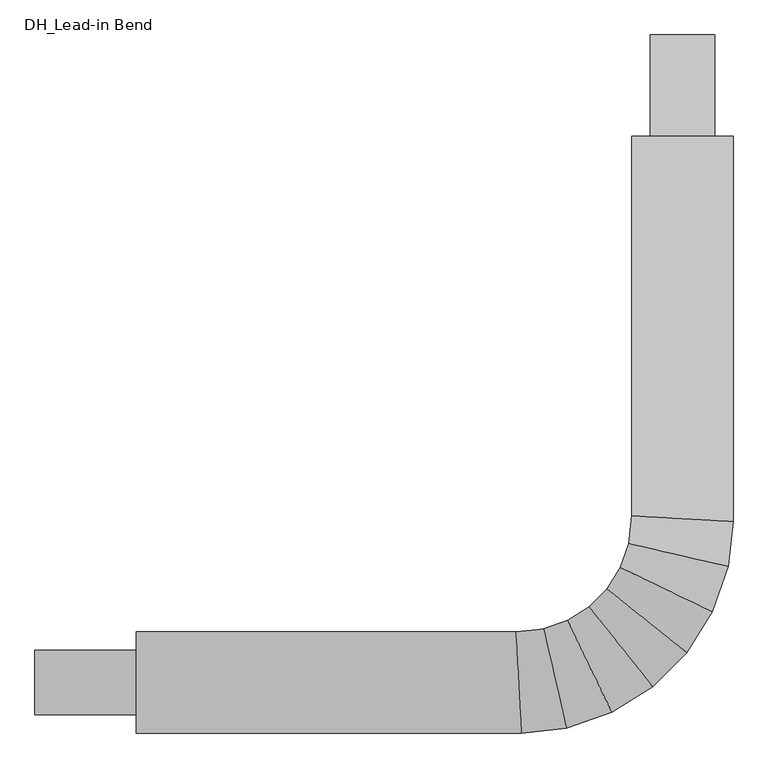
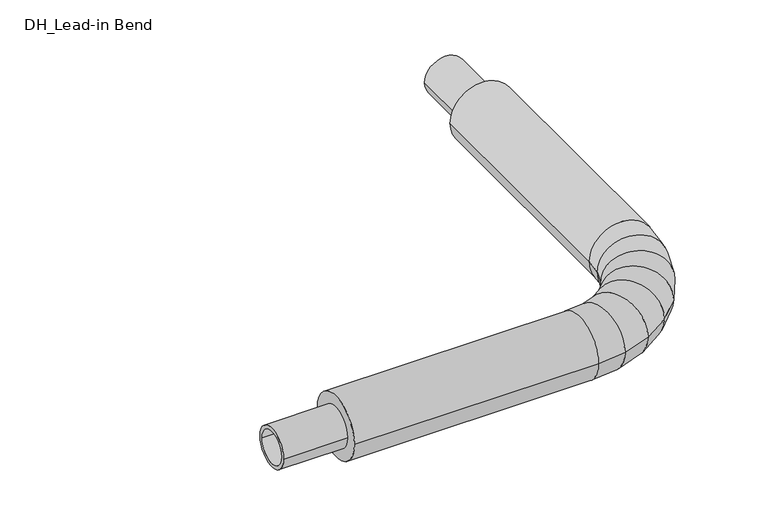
"""IFC4 building model written with IfcOpenShell, lengths in millimetres: pipe fitting geometry, DH_Lead-in Bend : RVT/RVX/RTX UNO 11 Heating."""

from ifc_helpers import new_model, si_unit, point, frame, origin, origin_2d, place, context, project, spatial, circle_curve, ellipse_curve, trimmed, segment, composite_curve, outline, extrude, source, transform, mapped, element, save
from ifc_brep_helpers import plane_surface, cylinder_surface, advanced_brep


def dh_lead_in_bend_179b0c8a(model_context):
    return source(origin(), model_context, "Body", "SolidModel", [
        advanced_brep(
        [(-1350.0, -125.0, 0.0), (-1350.0, 125.0, 0.0), (-397.9801506, -125.0, 0.0), (-412.0198494, 125.0, 0.0), (125.0, 1350.0, 0.0), (-125.0, 1350.0, 0.0), (-125.0, 412.0198494, 0.0), (125.0, 397.9801506, 0.0), (-286.8879022, -112.4829098, 0.0), (-342.8701402, 132.791301, 0.0), (-174.6984387, -73.2261186, 0.0), (-283.8557316, 153.4413357, 0.0), (-74.057257, -9.989073, 0.0), (-230.9160024, 186.7055723, 0.0), (9.989073, 74.057257, 0.0), (-186.7055723, 230.9160024, 0.0), (73.2261186, 174.6984387, 0.0), (-153.4413357, 283.8557316, 0.0), (112.4829098, 286.8879022, 0.0), (-132.791301, 342.8701402, 0.0)],
        [
            (0, 1, circle_curve(frame((-1350.0, 0.0, 0.0), z_axis=(-1.0, 0.0, 0.0), x_axis=(0.0, 1.0, 0.0)), 125.0)),
            (1, 0, circle_curve(frame((-1350.0, 0.0, 0.0), z_axis=(-1.0, 0.0, 0.0), x_axis=(0.0, 1.0, 0.0)), 125.0)),
            (0, 2),
            (2, 3, ellipse_curve(frame((-405.0, 0.0, 0.0), z_axis=(-0.9984268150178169, -0.05607044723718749, 0.0), x_axis=(-0.056070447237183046, 0.998426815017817, 0.0)), 125.196958, 125.0)),
            (3, 1),
            (3, 2, ellipse_curve(frame((-405.0, 0.0, 0.0), z_axis=(-0.9984268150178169, -0.05607044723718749, 0.0), x_axis=(-0.056070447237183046, 0.998426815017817, 0.0)), 125.196958, 125.0)),
            (4, 5, circle_curve(frame((0.0, 1350.0, 0.0), z_axis=(0.0, 1.0, 0.0), x_axis=(-1.0, 0.0, 0.0)), 125.0)),
            (5, 4, circle_curve(frame((0.0, 1350.0, 0.0), z_axis=(0.0, 1.0, 0.0), x_axis=(-1.0, 0.0, 0.0)), 125.0)),
            (6, 7, ellipse_curve(frame((0.0, 405.0, 0.0), z_axis=(0.05607044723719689, 0.9984268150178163, 0.0), x_axis=(0.9984268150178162, -0.05607044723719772, 0.0)), 125.196958, 125.0)),
            (7, 4),
            (5, 6),
            (7, 6, ellipse_curve(frame((0.0, 405.0, 0.0), z_axis=(0.05607044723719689, 0.9984268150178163, 0.0), x_axis=(0.9984268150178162, -0.05607044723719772, 0.0)), 125.196958, 125.0)),
            (2, 8),
            (8, 9, ellipse_curve(frame((-314.8790212, 10.1541956, 0.0), z_axis=(-0.9749279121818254, -0.22252093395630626, 0.0), x_axis=(-0.2225209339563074, 0.9749279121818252, 0.0)), 125.7909471, 125.0)),
            (9, 3),
            (9, 8, ellipse_curve(frame((-314.8790212, 10.1541956, 0.0), z_axis=(-0.9749279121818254, -0.22252093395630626, 0.0), x_axis=(-0.2225209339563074, 0.9749279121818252, 0.0)), 125.7909471, 125.0)),
            (8, 10),
            (10, 11, ellipse_curve(frame((-229.2770851, 40.1076086, 0.0), z_axis=(-0.9009688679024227, -0.4338837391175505, 0.0), x_axis=(-0.4338837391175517, 0.9009688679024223, 0.0)), 125.7909471, 125.0)),
            (11, 9),
            (11, 10, ellipse_curve(frame((-229.2770851, 40.1076086, 0.0), z_axis=(-0.9009688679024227, -0.4338837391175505, 0.0), x_axis=(-0.4338837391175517, 0.9009688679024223, 0.0)), 125.7909471, 125.0)),
            (10, 12),
            (12, 13, ellipse_curve(frame((-152.4866297, 88.3582497, 0.0), z_axis=(-0.7818314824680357, -0.6234898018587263, 0.0), x_axis=(-0.6234898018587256, 0.7818314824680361, 0.0)), 125.7909471, 125.0)),
            (13, 11),
            (13, 12, ellipse_curve(frame((-152.4866297, 88.3582497, 0.0), z_axis=(-0.7818314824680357, -0.6234898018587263, 0.0), x_axis=(-0.6234898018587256, 0.7818314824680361, 0.0)), 125.7909471, 125.0)),
            (12, 14),
            (14, 15, ellipse_curve(frame((-88.3582497, 152.4866297, 0.0), z_axis=(-0.6234898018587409, -0.7818314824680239, 0.0), x_axis=(-0.7818314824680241, 0.6234898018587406, 0.0)), 125.7909471, 125.0)),
            (15, 13),
            (15, 14, ellipse_curve(frame((-88.3582497, 152.4866297, 0.0), z_axis=(-0.6234898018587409, -0.7818314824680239, 0.0), x_axis=(-0.7818314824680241, 0.6234898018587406, 0.0)), 125.7909471, 125.0)),
            (14, 16),
            (16, 17, ellipse_curve(frame((-40.1076086, 229.2770851, 0.0), z_axis=(-0.43388373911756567, -0.9009688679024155, 0.0), x_axis=(-0.9009688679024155, 0.43388373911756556, 0.0)), 125.7909471, 125.0)),
            (17, 15),
            (17, 16, ellipse_curve(frame((-40.1076086, 229.2770851, 0.0), z_axis=(-0.43388373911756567, -0.9009688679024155, 0.0), x_axis=(-0.9009688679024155, 0.43388373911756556, 0.0)), 125.7909471, 125.0)),
            (16, 18),
            (18, 19, ellipse_curve(frame((-10.1541956, 314.8790212, 0.0), z_axis=(-0.22252093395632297, -0.9749279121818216, 0.0), x_axis=(-0.9749279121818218, 0.222520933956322, 0.0)), 125.7909471, 125.0)),
            (19, 17),
            (19, 18, ellipse_curve(frame((-10.1541956, 314.8790212, 0.0), z_axis=(-0.22252093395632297, -0.9749279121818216, 0.0), x_axis=(-0.9749279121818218, 0.222520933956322, 0.0)), 125.7909471, 125.0)),
            (18, 7),
            (6, 19),
        ],
        [
            plane_surface(frame((-1350.0, 0.0, 0.0), z_axis=(-1.0, 0.0, 0.0), x_axis=(0.0, 0.0, 1.0))),
            cylinder_surface(frame((-1350.0, 0.0, 0.0), z_axis=(-1.0, 0.0, 0.0), x_axis=(0.0, 1.0, 0.0)), 125.0),
            plane_surface(frame((0.0, 1350.0, 0.0), z_axis=(0.0, 1.0, 0.0), x_axis=(0.0, 0.0, 1.0))),
            cylinder_surface(frame((0.0, 405.0, 0.0), z_axis=(0.0, -1.0, 0.0), x_axis=(-1.0, 0.0, 0.0)), 125.0),
            cylinder_surface(frame((-405.0, 0.0, 0.0), z_axis=(-0.9937122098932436, -0.11196447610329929, 0.0), x_axis=(-0.11196447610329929, 0.9937122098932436, 0.0)), 125.0),
            cylinder_surface(frame((-314.8790212, 10.1541956, 0.0), z_axis=(-0.9438833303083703, -0.33027906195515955, 0.0), x_axis=(-0.33027906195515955, 0.9438833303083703, 0.0)), 125.0),
            cylinder_surface(frame((-229.2770851, 40.1076086, 0.0), z_axis=(-0.8467241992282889, -0.5320320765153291, 0.0), x_axis=(-0.5320320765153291, 0.8467241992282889, 0.0)), 125.0),
            cylinder_surface(frame((-152.4866297, 88.3582497, 0.0), z_axis=(-0.7071067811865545, -0.7071067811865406, 0.0), x_axis=(-0.7071067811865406, 0.7071067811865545, 0.0)), 125.0),
            cylinder_surface(frame((-88.3582497, 152.4866297, 0.0), z_axis=(-0.5320320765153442, -0.8467241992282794, 0.0), x_axis=(-0.8467241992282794, 0.5320320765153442, 0.0)), 125.0),
            cylinder_surface(frame((-40.1076086, 229.2770851, 0.0), z_axis=(-0.33027906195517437, -0.943883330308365, 0.0), x_axis=(-0.943883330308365, 0.33027906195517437, 0.0)), 125.0),
            cylinder_surface(frame((-10.1541956, 314.8790212, 0.0), z_axis=(-0.11196447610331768, -0.9937122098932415, 0.0), x_axis=(-0.9937122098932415, 0.11196447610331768, 0.0)), 125.0),
        ],
        [
            (0, [[1, 2]]),
            (1, [[-1, 3, 4, 5]]),
            (1, [[-2, -5, 6, -3]]),
            (2, [[7, 8]]),
            (3, [[9, 10, -8, 11]]),
            (3, [[12, -11, -7, -10]]),
            (4, [[-4, 13, 14, 15]]),
            (4, [[-6, -15, 16, -13]]),
            (5, [[-14, 17, 18, 19]]),
            (5, [[-16, -19, 20, -17]]),
            (6, [[-18, 21, 22, 23]]),
            (6, [[-20, -23, 24, -21]]),
            (7, [[-22, 25, 26, 27]]),
            (7, [[-24, -27, 28, -25]]),
            (8, [[-26, 29, 30, 31]]),
            (8, [[-28, -31, 32, -29]]),
            (9, [[-30, 33, 34, 35]]),
            (9, [[-32, -35, 36, -33]]),
            (10, [[-34, 37, -9, 38]]),
            (10, [[-36, -38, -12, -37]]),
        ],
    ),
        extrude(outline(composite_curve([segment(trimmed(circle_curve(origin_2d(), 80.0), [point((-80.0, 0.0))], [point((80.0, 0.0))], False, "CARTESIAN"), True, "CONTINUOUS"), segment(trimmed(circle_curve(origin_2d(), 80.0), [point((80.0, 0.0))], [point((-80.0, 0.0))], False, "CARTESIAN"), True, "CONTINUOUS")], self_intersect=False), holes=[composite_curve([segment(trimmed(circle_curve(origin_2d(), 65.4), [point((-65.4, 0.0))], [point((65.4, 0.0))], True, "CARTESIAN"), True, "CONTINUOUS"), segment(trimmed(circle_curve(origin_2d(), 65.4), [point((65.4, 0.0))], [point((-65.4, 0.0))], True, "CARTESIAN"), True, "CONTINUOUS")], self_intersect=False)]), frame((-1600.0, 0.0, 0.0), z_axis=(1.0, 0.0, 0.0), x_axis=(0.0, 1.0, 0.0)), (0.0, 0.0, 1.0), 250.0),
        extrude(outline(composite_curve([segment(trimmed(circle_curve(origin_2d(), 80.0), [point((0.0, 80.0))], [point((0.0, -80.0))], False, "CARTESIAN"), True, "CONTINUOUS"), segment(trimmed(circle_curve(origin_2d(), 80.0), [point((0.0, -80.0))], [point((0.0, 80.0))], False, "CARTESIAN"), True, "CONTINUOUS")], self_intersect=False), holes=[composite_curve([segment(trimmed(circle_curve(origin_2d(), 65.4), [point((0.0, 65.4))], [point((0.0, -65.4))], True, "CARTESIAN"), True, "CONTINUOUS"), segment(trimmed(circle_curve(origin_2d(), 65.4), [point((0.0, -65.4))], [point((0.0, 65.4))], True, "CARTESIAN"), True, "CONTINUOUS")], self_intersect=False)]), frame((0.0, 1350.0, 0.0), z_axis=(0.0, 1.0, 0.0), x_axis=(0.0, 0.0, 1.0)), (0.0, 0.0, 1.0), 250.0),
    ])


if __name__ == "__main__":
    model = new_model("IFC4")
    model_context = context("Model", 3, world=origin())
    ifc_project = project(units=[si_unit("LENGTHUNIT", "METRE", prefix="MILLI")], contexts=[model_context])
    site = spatial("IfcSite", under=ifc_project)
    building = spatial("IfcBuilding", under=site)
    placement = place(None, origin())
    dh_lead_in_bend_shape = dh_lead_in_bend_179b0c8a(model_context)
    element("IfcPipeFitting", 1, ObjectType="DH_Lead-in Bend : RVT/RVX/RTX UNO 11 Heating", at=placement, inside=building, context=model_context, shape_type="MappedRepresentation", body=[
        mapped(dh_lead_in_bend_shape, transform((0.0, 0.0, 0.0), x_axis=(1.0, 0.0, 0.0), y_axis=(0.0, 1.0, 0.0), z_axis=(0.0, 0.0, 1.0))),
    ])
    save(model, "model.ifc")
